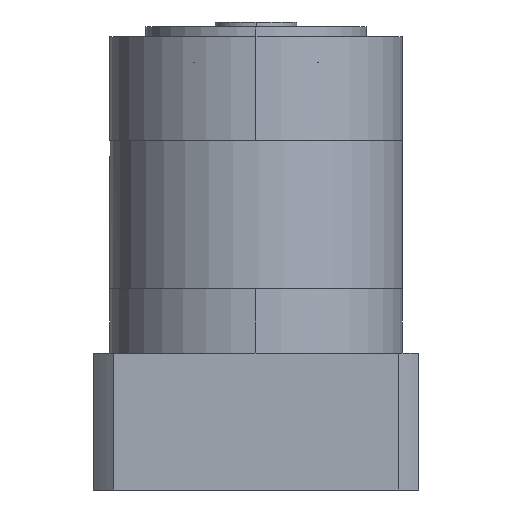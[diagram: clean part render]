
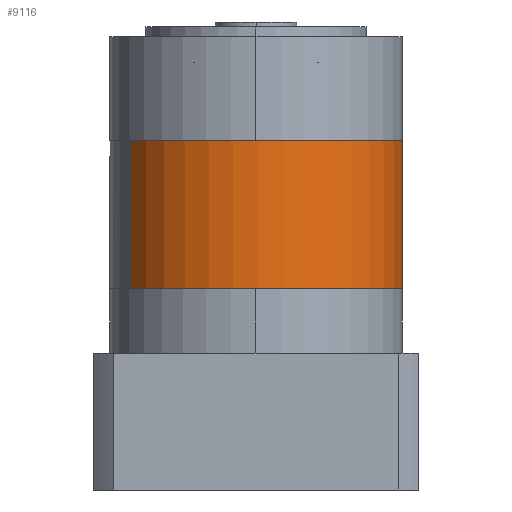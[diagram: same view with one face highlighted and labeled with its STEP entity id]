
A CAD part, left-side view. The second image highlights one B-rep face of the part: STEP entity #9116.
In plain terms, the highlighted cylindrical face has radius 45 mm (diameter 90 mm), a partial arc.
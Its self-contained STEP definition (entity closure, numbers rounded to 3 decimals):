
#2317 = CARTESIAN_POINT ( 'NONE',  ( 0., 0., 22.75 ) ) ;
#2460 = LINE ( 'NONE', #31938, #30980 ) ;
#2632 = CARTESIAN_POINT ( 'NONE',  ( 0., -45., -22.75 ) ) ;
#3990 = AXIS2_PLACEMENT_3D ( 'NONE', #28173, #6781, #31768 ) ;
#4239 = DIRECTION ( 'NONE',  ( 0., 0., -1. ) ) ;
#5021 = LINE ( 'NONE', #28241, #22899 ) ;
#5919 = DIRECTION ( 'NONE',  ( 0., 1., 0. ) ) ;
#6684 = VERTEX_POINT ( 'NONE', #2632 ) ;
#6781 = DIRECTION ( 'NONE',  ( 0., 0., 1. ) ) ;
#6851 = DIRECTION ( 'NONE',  ( 0., 0., -1. ) ) ;
#6920 = CYLINDRICAL_SURFACE ( 'NONE', #15282, 45. ) ;
#8024 = FACE_OUTER_BOUND ( 'NONE', #22976, .T. ) ;
#8763 = EDGE_CURVE ( 'NONE', #41226, #6684, #5021, .T. ) ;
#8817 = CARTESIAN_POINT ( 'NONE',  ( 0., 45., 22.75 ) ) ;
#9116 = ADVANCED_FACE ( 'NONE', ( #8024 ), #6920, .T. ) ;
#13833 = DIRECTION ( 'NONE',  ( 0., 0., -1. ) ) ;
#15054 = VERTEX_POINT ( 'NONE', #26962 ) ;
#15282 = AXIS2_PLACEMENT_3D ( 'NONE', #25631, #4239, #29227 ) ;
#16972 = CIRCLE ( 'NONE', #3990, 45. ) ;
#18443 = ORIENTED_EDGE ( 'NONE', *, *, #21183, .T. ) ;
#20728 = VERTEX_POINT ( 'NONE', #8817 ) ;
#21183 = EDGE_CURVE ( 'NONE', #20728, #15054, #2460, .T. ) ;
#22899 = VECTOR ( 'NONE', #6851, 1000. ) ;
#22976 = EDGE_LOOP ( 'NONE', ( #46047, #23109, #18443, #27660 ) ) ;
#23109 = ORIENTED_EDGE ( 'NONE', *, *, #39479, .T. ) ;
#25631 = CARTESIAN_POINT ( 'NONE',  ( 0., 0., 22.75 ) ) ;
#26962 = CARTESIAN_POINT ( 'NONE',  ( 0., 45., -22.75 ) ) ;
#27293 = DIRECTION ( 'NONE',  ( 0., 0., -1. ) ) ;
#27660 = ORIENTED_EDGE ( 'NONE', *, *, #40145, .T. ) ;
#28173 = CARTESIAN_POINT ( 'NONE',  ( 0., 0., -22.75 ) ) ;
#28241 = CARTESIAN_POINT ( 'NONE',  ( 0., -45., 22.75 ) ) ;
#29227 = DIRECTION ( 'NONE',  ( 0., 1., 0. ) ) ;
#30969 = CARTESIAN_POINT ( 'NONE',  ( 0., -45., 22.75 ) ) ;
#30980 = VECTOR ( 'NONE', #13833, 1000. ) ;
#31768 = DIRECTION ( 'NONE',  ( 0., 1., 0. ) ) ;
#31938 = CARTESIAN_POINT ( 'NONE',  ( 0., 45., 22.75 ) ) ;
#32998 = AXIS2_PLACEMENT_3D ( 'NONE', #2317, #27293, #5919 ) ;
#39479 = EDGE_CURVE ( 'NONE', #41226, #20728, #43308, .T. ) ;
#40145 = EDGE_CURVE ( 'NONE', #15054, #6684, #16972, .T. ) ;
#41226 = VERTEX_POINT ( 'NONE', #30969 ) ;
#43308 = CIRCLE ( 'NONE', #32998, 45. ) ;
#46047 = ORIENTED_EDGE ( 'NONE', *, *, #8763, .F. ) ;
